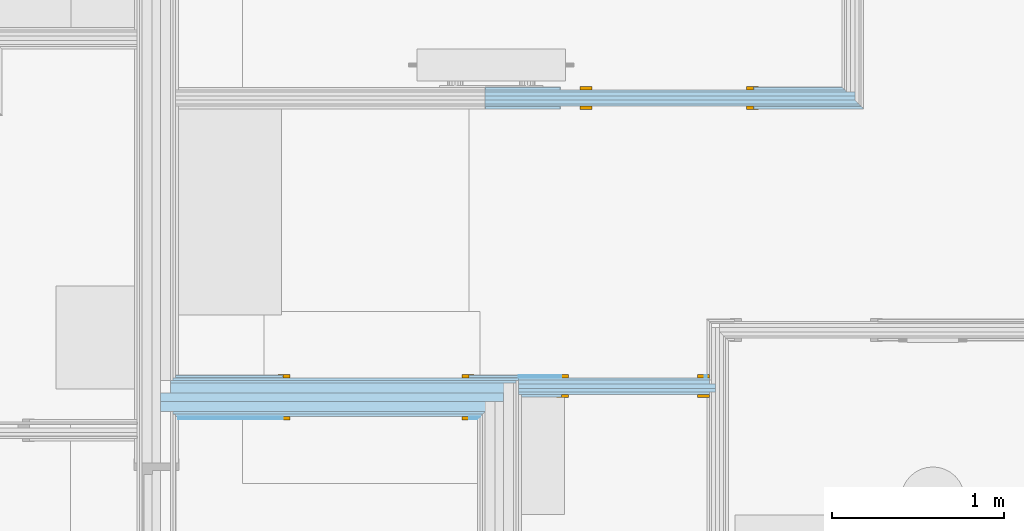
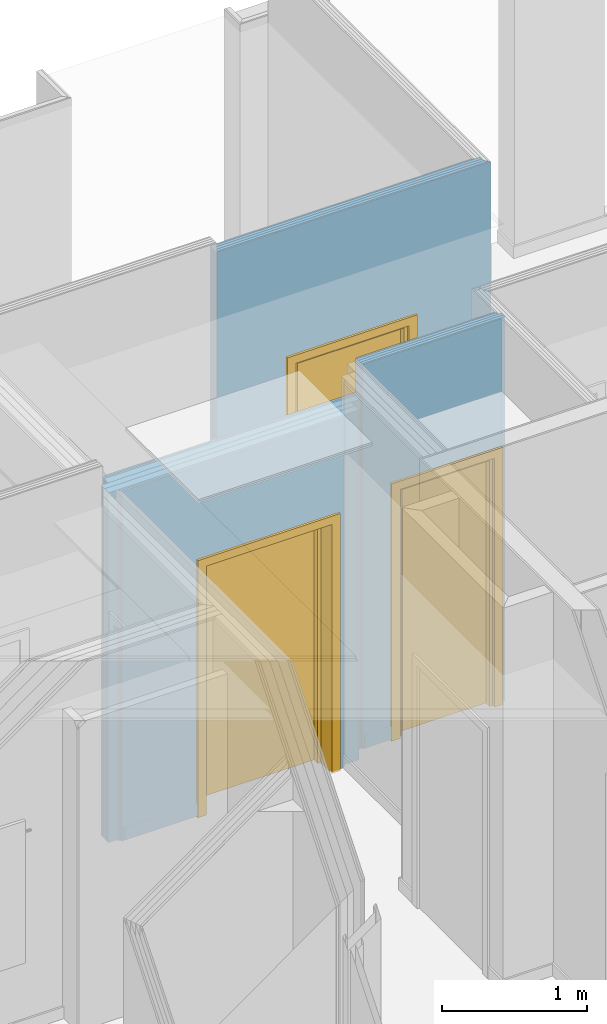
# One storey, part 49 of 64: 3 doors, 3 openings, 3 elements without a shape of their own, plus 23 elements that do not belong to this part.
"""IFC2X3 building model written with IfcOpenShell, lengths in metres."""

from ifc_helpers import new_model, entity, si_unit, converted_unit, derived_unit, money_unit, direction, frame, frame_2d, origin_with_axes, place, context, subcontext, project, spatial, polyline, rectangle, outline, extrude, faceted_brep, material, type_object, element, fill, aggregate, save


model = new_model("IFC2X3")

# Units and contexts
model_context = context("Model", 3, precision=1e-05, world=origin_with_axes(), true_north=direction((0.0, 1.0)))
body_context = subcontext(model_context, "Body", "Model", "MODEL_VIEW", scale=1.0)
ifc_project = project(units=[si_unit("LENGTHUNIT", "METRE"), si_unit("AREAUNIT", "SQUARE_METRE"), si_unit("VOLUMEUNIT", "CUBIC_METRE"), si_unit("ABSORBEDDOSEUNIT", "GRAY"), si_unit("AMOUNTOFSUBSTANCEUNIT", "MOLE"), si_unit("DOSEEQUIVALENTUNIT", "SIEVERT"), si_unit("ELECTRICCAPACITANCEUNIT", "FARAD"), si_unit("ELECTRICCHARGEUNIT", "COULOMB"), si_unit("ELECTRICCONDUCTANCEUNIT", "SIEMENS"), si_unit("ELECTRICCURRENTUNIT", "AMPERE"), si_unit("ELECTRICRESISTANCEUNIT", "OHM"), si_unit("ELECTRICVOLTAGEUNIT", "VOLT"), si_unit("ENERGYUNIT", "JOULE"), si_unit("FORCEUNIT", "NEWTON"), si_unit("FREQUENCYUNIT", "HERTZ"), si_unit("ILLUMINANCEUNIT", "LUX"), si_unit("INDUCTANCEUNIT", "HENRY"), si_unit("LUMINOUSFLUXUNIT", "LUMEN"), si_unit("LUMINOUSINTENSITYUNIT", "CANDELA"), si_unit("MAGNETICFLUXDENSITYUNIT", "TESLA"), si_unit("MAGNETICFLUXUNIT", "WEBER"), si_unit("MASSUNIT", "GRAM"), converted_unit("PLANEANGLEUNIT", "degree", entity("IfcReal", 0.0174532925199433), si_unit("PLANEANGLEUNIT", "RADIAN"), dimensions=[0, 0, 0, 0, 0, 0, 0]), si_unit("POWERUNIT", "WATT"), si_unit("PRESSUREUNIT", "PASCAL"), si_unit("RADIOACTIVITYUNIT", "BECQUEREL"), si_unit("SOLIDANGLEUNIT", "STERADIAN"), si_unit("THERMODYNAMICTEMPERATUREUNIT", "KELVIN"), si_unit("TIMEUNIT", "SECOND"), derived_unit("ACCELERATIONUNIT", [(si_unit("LENGTHUNIT", "METRE"), 1), (si_unit("TIMEUNIT", "SECOND"), -2)]), derived_unit("ANGULARVELOCITYUNIT", [(converted_unit("PLANEANGLEUNIT", "degree", entity("IfcReal", 0.0174532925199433), si_unit("PLANEANGLEUNIT", "RADIAN"), dimensions=[0, 0, 0, 0, 0, 0, 0]), 1), (si_unit("TIMEUNIT", "SECOND"), -1)]), derived_unit("CURVATUREUNIT", [(converted_unit("PLANEANGLEUNIT", "degree", entity("IfcReal", 0.0174532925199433), si_unit("PLANEANGLEUNIT", "RADIAN"), dimensions=[0, 0, 0, 0, 0, 0, 0]), 1), (si_unit("LENGTHUNIT", "METRE"), -1)]), derived_unit("DYNAMICVISCOSITYUNIT", [(si_unit("PRESSUREUNIT", "PASCAL"), 1), (si_unit("TIMEUNIT", "SECOND"), 1)]), derived_unit("HEATFLUXDENSITYUNIT", [(si_unit("POWERUNIT", "WATT"), 1), (si_unit("LENGTHUNIT", "METRE"), -2)]), derived_unit("HEATINGVALUEUNIT", [(si_unit("ENERGYUNIT", "JOULE"), 1), (si_unit("MASSUNIT", "GRAM"), -1)]), derived_unit("INTEGERCOUNTRATEUNIT", [(si_unit("TIMEUNIT", "SECOND"), -1)]), derived_unit("IONCONCENTRATIONUNIT", [(si_unit("MASSUNIT", "GRAM"), 1), (si_unit("VOLUMEUNIT", "CUBIC_METRE"), -1)]), derived_unit("ISOTHERMALMOISTURECAPACITYUNIT", [(si_unit("VOLUMEUNIT", "CUBIC_METRE"), 1), (si_unit("MASSUNIT", "GRAM"), -1)]), derived_unit("KINEMATICVISCOSITYUNIT", [(si_unit("AREAUNIT", "SQUARE_METRE"), 1), (si_unit("TIMEUNIT", "SECOND"), -1)]), derived_unit("LINEARFORCEUNIT", [(si_unit("FORCEUNIT", "NEWTON"), 1), (si_unit("LENGTHUNIT", "METRE"), -1)]), derived_unit("LINEARMOMENTUNIT", [(si_unit("FORCEUNIT", "NEWTON"), 1), (si_unit("LENGTHUNIT", "METRE"), -1)]), derived_unit("LINEARSTIFFNESSUNIT", [(si_unit("FORCEUNIT", "NEWTON"), 1), (si_unit("LENGTHUNIT", "METRE"), -1)]), derived_unit("LINEARVELOCITYUNIT", [(si_unit("LENGTHUNIT", "METRE"), 1), (si_unit("TIMEUNIT", "SECOND"), -1)]), derived_unit("LUMINOUSINTENSITYDISTRIBUTIONUNIT", [(si_unit("LUMINOUSINTENSITYUNIT", "CANDELA"), 1), (si_unit("LUMINOUSFLUXUNIT", "LUMEN"), -1)]), derived_unit("MASSDENSITYUNIT", [(si_unit("MASSUNIT", "GRAM"), 1), (si_unit("VOLUMEUNIT", "CUBIC_METRE"), -1)]), derived_unit("MASSFLOWRATEUNIT", [(si_unit("MASSUNIT", "GRAM"), 1), (si_unit("TIMEUNIT", "SECOND"), -1)]), derived_unit("MASSPERLENGTHUNIT", [(si_unit("MASSUNIT", "GRAM"), 1), (si_unit("LENGTHUNIT", "METRE"), -1)]), derived_unit("MODULUSOFELASTICITYUNIT", [(si_unit("FORCEUNIT", "NEWTON"), 1), (si_unit("AREAUNIT", "SQUARE_METRE"), -1)]), derived_unit("MODULUSOFLINEARSUBGRADEREACTIONUNIT", [(si_unit("FORCEUNIT", "NEWTON"), 1), (si_unit("LENGTHUNIT", "METRE"), -2)]), derived_unit("MODULUSOFROTATIONALSUBGRADEREACTIONUNIT", [(si_unit("FORCEUNIT", "NEWTON"), 1), (si_unit("LENGTHUNIT", "METRE"), 1)]), derived_unit("MODULUSOFSUBGRADEREACTIONUNIT", [(si_unit("FORCEUNIT", "NEWTON"), 1), (si_unit("VOLUMEUNIT", "CUBIC_METRE"), -1)]), derived_unit("MOISTUREDIFFUSIVITYUNIT", [(si_unit("VOLUMEUNIT", "CUBIC_METRE"), 1), (si_unit("TIMEUNIT", "SECOND"), -1)]), derived_unit("MOLECULARWEIGHTUNIT", [(si_unit("MASSUNIT", "GRAM"), 1), (si_unit("AMOUNTOFSUBSTANCEUNIT", "MOLE"), -1)]), derived_unit("PLANARFORCEUNIT", [(si_unit("FORCEUNIT", "NEWTON"), 1), (si_unit("LENGTHUNIT", "METRE"), -2)]), derived_unit("ROTATIONALFREQUENCYUNIT", [(si_unit("TIMEUNIT", "SECOND"), -1)]), derived_unit("ROTATIONALMASSUNIT", [(si_unit("MASSUNIT", "GRAM"), 1), (si_unit("LENGTHUNIT", "METRE"), 2)]), derived_unit("ROTATIONALSTIFFNESSUNIT", [(si_unit("FORCEUNIT", "NEWTON"), 1), (si_unit("LENGTHUNIT", "METRE"), 1), (converted_unit("PLANEANGLEUNIT", "degree", entity("IfcReal", 0.0174532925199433), si_unit("PLANEANGLEUNIT", "RADIAN"), dimensions=[0, 0, 0, 0, 0, 0, 0]), -1)]), derived_unit("SECTIONAREAINTEGRALUNIT", [(si_unit("LENGTHUNIT", "METRE"), 5)]), derived_unit("SECTIONMODULUSUNIT", [(si_unit("LENGTHUNIT", "METRE"), 3)]), derived_unit("SHEARMODULUSUNIT", [(si_unit("FORCEUNIT", "NEWTON"), 1), (si_unit("AREAUNIT", "SQUARE_METRE"), -1)]), derived_unit("SOUNDPOWERUNIT", [(si_unit("ENERGYUNIT", "JOULE"), 1), (si_unit("TIMEUNIT", "SECOND"), -1)]), derived_unit("SPECIFICHEATCAPACITYUNIT", [(si_unit("FORCEUNIT", "NEWTON"), 1), (si_unit("MASSUNIT", "GRAM"), -1), (si_unit("THERMODYNAMICTEMPERATUREUNIT", "KELVIN"), -1)]), derived_unit("TEMPERATUREGRADIENTUNIT", [(si_unit("THERMODYNAMICTEMPERATUREUNIT", "KELVIN"), 1), (si_unit("LENGTHUNIT", "METRE"), -1)]), derived_unit("THERMALADMITTANCEUNIT", [(si_unit("POWERUNIT", "WATT"), 1), (si_unit("AREAUNIT", "SQUARE_METRE"), -1), (si_unit("THERMODYNAMICTEMPERATUREUNIT", "KELVIN"), -1)]), derived_unit("THERMALCONDUCTANCEUNIT", [(si_unit("POWERUNIT", "WATT"), 1), (si_unit("LENGTHUNIT", "METRE"), -1), (si_unit("THERMODYNAMICTEMPERATUREUNIT", "KELVIN"), -1)]), derived_unit("THERMALEXPANSIONCOEFFICIENTUNIT", [(si_unit("THERMODYNAMICTEMPERATUREUNIT", "KELVIN"), -1)]), derived_unit("THERMALRESISTANCEUNIT", [(si_unit("AREAUNIT", "SQUARE_METRE"), 1), (si_unit("POWERUNIT", "WATT"), -1)]), derived_unit("THERMALTRANSMITTANCEUNIT", [(si_unit("POWERUNIT", "WATT"), 1), (si_unit("AREAUNIT", "SQUARE_METRE"), -1), (si_unit("THERMODYNAMICTEMPERATUREUNIT", "KELVIN"), -1)]), derived_unit("TORQUEUNIT", [(si_unit("FORCEUNIT", "NEWTON"), 1), (si_unit("LENGTHUNIT", "METRE"), 1)]), derived_unit("VAPORPERMEABILITYUNIT", [(si_unit("MASSUNIT", "GRAM"), 1), (si_unit("TIMEUNIT", "SECOND"), -1)]), derived_unit("VOLUMETRICFLOWRATEUNIT", [(si_unit("VOLUMEUNIT", "CUBIC_METRE"), 1), (si_unit("TIMEUNIT", "SECOND"), -1)]), derived_unit("WARPINGCONSTANTUNIT", [(si_unit("LENGTHUNIT", "METRE"), 6)]), derived_unit("WARPINGMOMENTUNIT", [(si_unit("FORCEUNIT", "NEWTON"), 1), (si_unit("LENGTHUNIT", "METRE"), 2)]), money_unit("GBP")], contexts=[model_context])

# Site, building, storey, space
site_placement = place(None, origin_with_axes())
site = spatial("IfcSite", under=ifc_project, at=site_placement, Name="Site", CompositionType="ELEMENT")
building_placement = place(site_placement, origin_with_axes())
building = spatial("IfcBuilding", under=site, at=building_placement, Name="Building01", CompositionType="ELEMENT")
storey_placement = place(building_placement, frame((0.0, 0.0, 8.64), z_axis=(0.0, 0.0, 1.0), x_axis=(1.0, 0.0, 0.0)))
storey = spatial("IfcBuildingStorey", under=building, at=storey_placement, Name="2F", CompositionType="ELEMENT", Elevation=8.64)
space_1_placement = place(storey_placement, frame((11.275, 11.668124, 0.017975), z_axis=(0.0, 0.0, 1.0), x_axis=(-1.0, 0.0, 0.0)))
space_1 = spatial("IfcSpace", under=storey, at=space_1_placement, Name="corridor", CompositionType="ELEMENT", InteriorOrExteriorSpace="NOTDEFINED")

# Door
ifc_material_1 = material(Name="A_BSUK_Doors")
door_style_1 = type_object("IfcDoorStyle", Name="A-Doors-SingleFlush", ConstructionType="USERDEFINED", OperationType="SINGLE_SWING_LEFT", ParameterTakesPrecedence=False, Sizeable=False)
wall_1_placement = place(storey_placement, frame((9.197, 9.949704, 0.0), z_axis=(0.0, 0.0, 1.0), x_axis=(-1.0, 0.0, 0.0)))
opening_1_placement = place(wall_1_placement, frame((0.200331, -0.153, 0.0), z_axis=(0.0, 0.0, 1.0), x_axis=(1.0, 0.0, 0.0)))
door_1_placement = place(opening_1_placement, frame((1.042, 0.015, 0.0), z_axis=(0.0, 0.0, 1.0), x_axis=(-1.0, 0.0, 0.0)))
door_1 = element("IfcDoor", 1, at=door_1_placement, inside=space_1, type_object=door_style_1, material=ifc_material_1, Name="2.23", ObjectType="A-Doors-SingleFlush", OverallHeight=2.142, OverallWidth=1.08400000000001, context=body_context, shape_type="Brep", body=[
    faceted_brep([(0.0, -0.244, 2.1), (1.0, -0.244, 2.1), (1.0, -0.244, 0.0), (1.069, -0.244, 0.0), (1.069, -0.244, 2.169), (-0.069, -0.244, 2.169), (-0.069, -0.244, 0.0), (0.0, -0.244, 0.0), (1.069, -0.225, 2.169), (1.069, -0.225, 0.0), (-0.069, -0.225, 0.0), (-0.069, -0.225, 2.169), (-0.042, -0.225, 0.0), (-0.042, 0.0, 0.0), (-0.069, 0.0, 0.0), (-0.069, 0.019, 0.0), (0.0, 0.019, 0.0), (0.0, 0.019, 2.1), (1.0, 0.019, 2.1), (-0.069, 0.019, 2.169), (1.069, 0.019, 2.169), (1.069, 0.019, 0.0), (1.0, 0.019, 0.0), (-0.069, 0.0, 2.169), (-0.042, 0.0, 2.142), (-0.042, -0.225, 2.142), (1.042, 0.0, 2.142), (1.042, -0.225, 2.142), (1.042, -0.225, 0.0), (1.042, 0.0, 0.0), (1.069, 0.0, 0.0), (1.069, 0.0, 2.169)], [[[0, 1, 2, 3, 4, 5, 6, 7]], [[8, 4, 3, 9]], [[10, 6, 5, 11]], [[11, 5, 4, 8]], [[7, 6, 10, 12, 13, 14, 15, 16]], [[7, 16, 17, 0]], [[0, 17, 18, 1]], [[17, 16, 15, 19, 20, 21, 22, 18]], [[1, 18, 22, 2]], [[14, 23, 19, 15]], [[24, 13, 12, 25]], [[26, 24, 25, 27]], [[11, 8, 9, 28, 27, 25, 12, 10]], [[27, 28, 29, 26]], [[26, 29, 30, 31, 23, 14, 13, 24]], [[22, 21, 30, 29, 28, 9, 3, 2]], [[30, 21, 20, 31]], [[31, 20, 19, 23]]]),
    faceted_brep([(1.0, -0.09, 0.0), (1.0, -0.04, 0.0), (1.0, -0.04, 2.1), (1.0, -0.09, 2.1), (0.025, -0.09, 2.075), (0.975, -0.09, 2.075), (0.975, -0.09, 0.0), (0.0, -0.09, 2.1), (0.0, -0.09, 0.0), (0.025, -0.09, 0.0), (0.0, -0.04, 0.0), (0.025, -0.04, 0.0), (0.0, -0.04, 2.1), (0.025, -0.04, 2.075), (0.975, -0.04, 0.0), (0.975, -0.04, 2.075)], [[[0, 1, 2, 3]], [[4, 5, 6, 0, 3, 7, 8, 9]], [[9, 8, 10, 11]], [[3, 2, 12, 7]], [[7, 12, 10, 8]], [[13, 11, 10, 12, 2, 1, 14, 15]], [[5, 15, 14, 6]], [[14, 1, 0, 6]], [[9, 11, 13, 4]], [[4, 13, 15, 5]]]),
    faceted_brep([(0.0, -0.04, 2.1), (0.0, 0.0, 2.1), (0.0, 0.0, 0.0), (0.0, -0.04, 0.0), (1.0, -0.04, 0.0), (1.0, 0.0, 0.0), (1.0, 0.0, 2.1), (1.0, -0.04, 2.1)], [[[0, 1, 2, 3]], [[4, 5, 6, 7]], [[3, 2, 5, 4]], [[3, 4, 7, 0]], [[7, 6, 1, 0]], [[1, 6, 5, 2]]]),
])

# Space
space_2_placement = place(storey_placement, frame((7.289669, 14.8, 0.017975), z_axis=(0.0, 0.0, 1.0), x_axis=(0.0, -1.0, 0.0)))
space_2 = spatial("IfcSpace", under=storey, at=space_2_placement, Name="15", CompositionType="ELEMENT", InteriorOrExteriorSpace="NOTDEFINED")

# Door
door_style_2 = type_object("IfcDoorStyle", Name="A-Doors-SingleFlush", ConstructionType="USERDEFINED", OperationType="SINGLE_SWING_RIGHT", ParameterTakesPrecedence=False, Sizeable=False)
wall_3_placement = place(storey_placement, frame((10.428871, 10.052704, 0.0), z_axis=(0.0, 0.0, 1.0), x_axis=(-1.0, 0.0, 0.0)))
opening_3_placement = place(wall_3_placement, frame((0.062, -0.05, 0.0), z_axis=(0.0, 0.0, 1.0), x_axis=(1.0, 0.0, 0.0)))
door_2_placement = place(opening_3_placement, frame((0.792, 0.015, 0.0), z_axis=(0.0, 0.0, 1.0), x_axis=(-1.0, 0.0, 0.0)))
door_2 = element("IfcDoor", 2, at=door_2_placement, inside=space_2, type_object=door_style_2, material=ifc_material_1, Name="2.24", ObjectType="A-Doors-SingleFlush", OverallHeight=2.142, OverallWidth=0.834, context=body_context, shape_type="Brep", body=[
    faceted_brep([(0.75, -0.114, 0.0), (0.819, -0.114, 0.0), (0.819, -0.114, 2.169), (-0.069, -0.114, 2.169), (-0.069, -0.114, 0.0), (0.0, -0.114, 0.0), (0.0, -0.114, 2.1), (0.75, -0.114, 2.1), (-0.069, -0.095, 0.0), (-0.069, -0.095, 2.169), (0.819, -0.095, 2.169), (0.819, -0.095, 0.0), (0.75, 0.019, 0.0), (0.819, 0.019, 0.0), (0.819, 0.0, 0.0), (0.792, 0.0, 0.0), (0.792, -0.095, 0.0), (0.75, 0.019, 2.1), (0.0, 0.019, 2.1), (0.0, 0.019, 0.0), (-0.069, 0.019, 0.0), (-0.069, 0.019, 2.169), (0.819, 0.019, 2.169), (0.819, 0.0, 2.169), (0.792, -0.095, 2.142), (0.792, 0.0, 2.142), (-0.042, -0.095, 2.142), (-0.042, 0.0, 2.142), (-0.042, -0.095, 0.0), (-0.042, 0.0, 0.0), (-0.069, 0.0, 2.169), (-0.069, 0.0, 0.0)], [[[0, 1, 2, 3, 4, 5, 6, 7]], [[8, 4, 3, 9]], [[10, 2, 1, 11]], [[9, 3, 2, 10]], [[12, 13, 14, 15, 16, 11, 1, 0]], [[7, 17, 12, 0]], [[6, 18, 17, 7]], [[18, 19, 20, 21, 22, 13, 12, 17]], [[5, 19, 18, 6]], [[13, 22, 23, 14]], [[24, 16, 15, 25]], [[26, 24, 25, 27]], [[11, 16, 24, 26, 28, 8, 9, 10]], [[27, 29, 28, 26]], [[25, 15, 14, 23, 30, 31, 29, 27]], [[5, 4, 8, 28, 29, 31, 20, 19]], [[30, 21, 20, 31]], [[23, 22, 21, 30]]]),
    faceted_brep([(0.0, -0.09, 2.1), (0.0, -0.04, 2.1), (0.0, -0.04, 0.0), (0.0, -0.09, 0.0), (0.725, -0.09, 0.0), (0.75, -0.09, 0.0), (0.75, -0.09, 2.1), (0.025, -0.09, 0.0), (0.025, -0.09, 2.075), (0.725, -0.09, 2.075), (0.725, -0.04, 0.0), (0.75, -0.04, 0.0), (0.75, -0.04, 2.1), (0.025, -0.04, 2.075), (0.025, -0.04, 0.0), (0.725, -0.04, 2.075)], [[[0, 1, 2, 3]], [[4, 5, 6, 0, 3, 7, 8, 9]], [[10, 11, 5, 4]], [[6, 12, 1, 0]], [[5, 11, 12, 6]], [[13, 14, 2, 1, 12, 11, 10, 15]], [[7, 14, 13, 8]], [[7, 3, 2, 14]], [[9, 15, 10, 4]], [[8, 13, 15, 9]]]),
    faceted_brep([(0.75, -0.04, 0.0), (0.75, 0.0, 0.0), (0.75, 0.0, 2.1), (0.75, -0.04, 2.1), (0.0, -0.04, 2.1), (0.0, 0.0, 2.1), (0.0, 0.0, 0.0), (0.0, -0.04, 0.0)], [[[0, 1, 2, 3]], [[4, 5, 6, 7]], [[7, 6, 1, 0]], [[3, 4, 7, 0]], [[3, 2, 5, 4]], [[1, 6, 5, 2]]]),
])

wall_2_placement = place(storey_placement, frame((9.09, 11.703124, 0.0), z_axis=(0.0, 0.0, 1.0), x_axis=(1.0, 0.0, 0.0)))
opening_2_placement = place(wall_2_placement, frame((0.579, -0.05, -0.015), z_axis=(0.0, 0.0, 1.0), x_axis=(1.0, 0.0, 0.0)))
door_3_placement = place(opening_2_placement, frame((0.042, 0.11, 0.015), z_axis=(0.0, 0.0, 1.0), x_axis=(1.0, 0.0, 0.0)))
door_3 = element("IfcDoor", 3, at=door_3_placement, inside=space_2, type_object=door_style_2, material=ifc_material_1, Name="2.25", ObjectType="A-Doors-SingleFlush", OverallHeight=2.14200000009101, OverallWidth=1.127117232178, context=body_context, shape_type="Brep", body=[
    faceted_brep([(0.9, -0.114, 0.0), (0.969, -0.114, 0.0), (0.969, -0.114, 2.169), (-0.069, -0.114, 2.169), (-0.069, -0.114, 0.0), (0.0, -0.114, 0.0), (0.0, -0.114, 2.1), (0.9, -0.114, 2.1), (-0.069, -0.095, 0.0), (-0.069, -0.095, 2.169), (0.969, -0.095, 2.169), (0.969, -0.095, 0.0), (0.9, 0.019, 0.0), (0.969, 0.019, 0.0), (0.969, 0.0, 0.0), (0.942, 0.0, 0.0), (0.942, -0.095, 0.0), (0.9, 0.019, 2.1), (0.0, 0.019, 2.1), (0.0, 0.019, 0.0), (-0.069, 0.019, 0.0), (-0.069, 0.019, 2.169), (0.969, 0.019, 2.169), (0.969, 0.0, 2.169), (0.942, -0.095, 2.142), (0.942, 0.0, 2.142), (-0.042, -0.095, 2.142), (-0.042, 0.0, 2.142), (-0.042, -0.095, 0.0), (-0.042, 0.0, 0.0), (-0.069, 0.0, 2.169), (-0.069, 0.0, 0.0)], [[[0, 1, 2, 3, 4, 5, 6, 7]], [[8, 4, 3, 9]], [[10, 2, 1, 11]], [[9, 3, 2, 10]], [[12, 13, 14, 15, 16, 11, 1, 0]], [[7, 17, 12, 0]], [[6, 18, 17, 7]], [[18, 19, 20, 21, 22, 13, 12, 17]], [[5, 19, 18, 6]], [[13, 22, 23, 14]], [[24, 16, 15, 25]], [[26, 24, 25, 27]], [[11, 16, 24, 26, 28, 8, 9, 10]], [[27, 29, 28, 26]], [[25, 15, 14, 23, 30, 31, 29, 27]], [[5, 4, 8, 28, 29, 31, 20, 19]], [[30, 21, 20, 31]], [[23, 22, 21, 30]]]),
    faceted_brep([(0.0, -0.09, 2.1), (0.0, -0.04, 2.1), (0.0, -0.04, 0.0), (0.0, -0.09, 0.0), (0.875, -0.09, 0.0), (0.9, -0.09, 0.0), (0.9, -0.09, 2.1), (0.025, -0.09, 0.0), (0.025, -0.09, 2.075), (0.875, -0.09, 2.075), (0.875, -0.04, 0.0), (0.9, -0.04, 0.0), (0.9, -0.04, 2.1), (0.025, -0.04, 2.075), (0.025, -0.04, 0.0), (0.875, -0.04, 2.075)], [[[0, 1, 2, 3]], [[4, 5, 6, 0, 3, 7, 8, 9]], [[10, 11, 5, 4]], [[6, 12, 1, 0]], [[5, 11, 12, 6]], [[13, 14, 2, 1, 12, 11, 10, 15]], [[7, 14, 13, 8]], [[7, 3, 2, 14]], [[9, 15, 10, 4]], [[8, 13, 15, 9]]]),
    faceted_brep([(0.9, -0.04, 0.0), (0.9, 0.0, 0.0), (0.9, 0.0, 2.1), (0.9, -0.04, 2.1), (0.0, -0.04, 2.1), (0.0, 0.0, 2.1), (0.0, 0.0, 0.0), (0.0, -0.04, 0.0)], [[[0, 1, 2, 3]], [[4, 5, 6, 7]], [[7, 6, 1, 0]], [[3, 4, 7, 0]], [[3, 2, 5, 4]], [[1, 6, 5, 2]]]),
])

# Wall, opening
wall_type_1 = type_object("IfcWallType", Name="SHE_A-Walls_Type01c_Partywall_225mm_twin_tall", PredefinedType="NOTDEFINED")
wall_1 = element("IfcWall", 4, at=wall_1_placement, inside=storey, type_object=wall_type_1, Name="1C", ObjectType="SHE_A-Walls_Type01c_Partywall_225mm_twin_tall")
opening_1 = element("IfcOpeningElement", 5, at=opening_1_placement, cuts=wall_1, Name="Opening", ObjectType="Opening", context=body_context, shape_type="SweptSolid", body=[
    extrude(rectangle(XDim=1.084, YDim=2.142, at=frame_2d((-0.542, 1.071), x_axis=(-1.0, 0.0))), frame((0.0, 0.0, 0.0), z_axis=(0.0, 1.0, 0.0), x_axis=(-1.0, 0.0, 0.0)), (0.0, 0.0, 1.0), 0.255),
])

fill(opening_1, door_1)

# Building element part
ifc_material_2 = material(Name="A_BSUK_Walls_Timber")
placement_1 = place(wall_1_placement, origin_with_axes())
building_element_part_1 = element("IfcBuildingElementPart", 6, at=placement_1, material=ifc_material_2, Name="1", context=body_context, shape_type="SweptSolid", body=[
    extrude(outline(polyline([(1.907331, -0.138), (-0.088, -0.138), (-0.103, -0.153), (1.907331, -0.153), (1.907331, -0.138)])), frame((0.0, 0.0, 0.015), z_axis=(0.0, 0.0, 1.0), x_axis=(1.0, 0.0, 0.0)), (0.0, 0.0, 1.0), 0.1),
])

ifc_material_3 = material(Name="A_BSUK_WallInternal_Finishes_Plasterboard")
building_element_part_2 = element("IfcBuildingElementPart", 7, at=placement_1, material=ifc_material_3, Name="2", context=body_context, shape_type="SweptSolid", body=[
    extrude(rectangle(XDim=2.010331, YDim=0.015, at=frame_2d((0.917166, -0.1305), x_axis=(-1.0, 0.0))), origin_with_axes(), (0.0, 0.0, 1.0), 2.95),
])

building_element_part_3 = element("IfcBuildingElementPart", 8, at=placement_1, material=ifc_material_3, Name="3", context=body_context, shape_type="SweptSolid", body=[
    extrude(rectangle(XDim=2.010331, YDim=0.015, at=frame_2d((0.932166, -0.1155), x_axis=(-1.0, 0.0))), origin_with_axes(), (0.0, 0.0, 1.0), 2.95),
])

ifc_material_4 = material(Name="Air Cavity")
building_element_part_4 = element("IfcBuildingElementPart", 9, at=placement_1, material=ifc_material_4, Name="4", context=body_context, shape_type="SweptSolid", body=[
    extrude(rectangle(XDim=2.010331, YDim=0.058, at=frame_2d((0.932166, -0.079), x_axis=(-1.0, 0.0))), origin_with_axes(), (0.0, 0.0, 1.0), 2.95),
])

ifc_material_5 = material(Name="A_BSUK_Insulation")
building_element_part_5 = element("IfcBuildingElementPart", 10, at=placement_1, material=ifc_material_5, Name="5", context=body_context, shape_type="SweptSolid", body=[
    extrude(rectangle(XDim=1.995331, YDim=0.05, at=frame_2d((0.997666, -0.025), x_axis=(-1.0, 0.0))), origin_with_axes(), (0.0, 0.0, 1.0), 2.95),
])

building_element_part_6 = element("IfcBuildingElementPart", 11, at=placement_1, material=ifc_material_4, Name="6", context=body_context, shape_type="SweptSolid", body=[
    extrude(rectangle(XDim=1.995331, YDim=0.057, at=frame_2d((0.997666, 0.0285), x_axis=(-1.0, 0.0))), origin_with_axes(), (0.0, 0.0, 1.0), 2.95),
])

building_element_part_7 = element("IfcBuildingElementPart", 12, at=placement_1, material=ifc_material_3, Name="7", context=body_context, shape_type="SweptSolid", body=[
    extrude(outline(polyline([(1.922331, 0.072), (0.122, 0.072), (0.107, 0.057), (1.922331, 0.057), (1.922331, 0.072)])), origin_with_axes(), (0.0, 0.0, 1.0), 2.95),
])

building_element_part_8 = element("IfcBuildingElementPart", 13, at=placement_1, material=ifc_material_3, Name="8", context=body_context, shape_type="SweptSolid", body=[
    extrude(outline(polyline([(1.907331, 0.087), (0.137, 0.087), (0.122, 0.072), (1.907331, 0.072), (1.907331, 0.087)])), origin_with_axes(), (0.0, 0.0, 1.0), 2.95),
])

building_element_part_9 = element("IfcBuildingElementPart", 14, at=placement_1, material=ifc_material_2, Name="9", context=body_context, shape_type="SweptSolid", body=[
    extrude(outline(polyline([(1.892331, 0.102), (0.152, 0.102), (0.137, 0.087), (1.892331, 0.087), (1.892331, 0.102)])), frame((0.0, 0.0, 0.015), z_axis=(0.0, 0.0, 1.0), x_axis=(1.0, 0.0, 0.0)), (0.0, 0.0, 1.0), 0.1),
])

aggregate(wall_1, [building_element_part_1, building_element_part_2, building_element_part_3, building_element_part_4, building_element_part_5, building_element_part_6, building_element_part_7, building_element_part_8, building_element_part_9])

# Wall, opening
wall_type_2 = type_object("IfcWallType", Name="SHE_A-Walls_Type05a_Partition_95mm_tall", PredefinedType="NOTDEFINED")
wall_2 = element("IfcWall", 15, at=wall_2_placement, inside=storey, type_object=wall_type_2, Name="5A", ObjectType="SHE_A-Walls_Type05a_Partition_95mm_tall")
opening_2 = element("IfcOpeningElement", 16, at=opening_2_placement, cuts=wall_2, Name="Opening", ObjectType="Opening", context=body_context, shape_type="SweptSolid", body=[
    extrude(outline(polyline([(-0.042, 0.0), (-0.042, 0.015), (0.0, 0.015), (0.0, 2.157), (-0.984, 2.157), (-0.984, 0.015), (-0.840883, 0.015), (-0.840883, 0.0), (-0.042, 0.0)])), frame((0.0, 0.0, 0.0), z_axis=(0.0, 1.0, 0.0), x_axis=(-1.0, 0.0, 0.0)), (0.0, 0.0, 1.0), 0.125),
    extrude(outline(polyline([(-0.942, 0.015), (-0.942, 0.0), (-0.042, 0.0), (-0.042, 0.015), (0.0, 0.015), (0.0, 2.157), (-0.984, 2.157), (-0.984, 0.015), (-0.942, 0.015)])), frame((0.0, 0.015, 0.0), z_axis=(0.0, 1.0, 0.0), x_axis=(-1.0, 0.0, 0.0)), (0.0, 0.0, 1.0), 0.012),
    extrude(outline(polyline([(0.0, 2.142), (0.0, 2.157), (-0.984, 2.157), (-0.984, 0.015), (-0.840883, 0.015), (-0.840883, 0.0), (0.143117, 0.0), (0.143117, 2.142), (0.0, 2.142)])), frame((0.0, 0.0, 0.0), z_axis=(0.0, 1.0, 0.0), x_axis=(-1.0, 0.0, 0.0)), (0.0, 0.0, 1.0), 0.015),
    extrude(outline(polyline([(-0.942, 0.015), (-0.942, 0.0), (-0.042, 0.0), (-0.042, 0.015), (0.0, 0.015), (0.0, 2.157), (-0.984, 2.157), (-0.984, 0.015), (-0.942, 0.015)])), frame((0.0, 0.027, 0.0), z_axis=(0.0, 1.0, 0.0), x_axis=(-1.0, 0.0, 0.0)), (0.0, 0.0, 1.0), 0.023),
    extrude(outline(polyline([(-0.942, 0.015), (-0.942, 0.0), (-0.042, 0.0), (-0.042, 0.015), (0.0, 0.015), (0.0, 2.157), (-0.984, 2.157), (-0.984, 0.015), (-0.942, 0.015)])), frame((0.0, 0.05, 0.0), z_axis=(0.0, 1.0, 0.0), x_axis=(-1.0, 0.0, 0.0)), (0.0, 0.0, 1.0), 0.025),
    extrude(outline(polyline([(-0.942, 0.015), (-0.942, 0.0), (-0.042, 0.0), (-0.042, 0.015), (0.0, 0.015), (0.0, 2.157), (-0.984, 2.157), (-0.984, 0.015), (-0.942, 0.015)])), frame((0.0, 0.075, 0.0), z_axis=(0.0, 1.0, 0.0), x_axis=(-1.0, 0.0, 0.0)), (0.0, 0.0, 1.0), 0.023),
    extrude(outline(polyline([(-0.942, 0.015), (-0.942, 0.0), (-0.042, 0.0), (-0.042, 0.015), (0.0, 0.015), (0.0, 2.157), (-0.984, 2.157), (-0.984, 0.015), (-0.942, 0.015)])), frame((0.0, 0.098, 0.0), z_axis=(0.0, 1.0, 0.0), x_axis=(-1.0, 0.0, 0.0)), (0.0, 0.0, 1.0), 0.012),
    extrude(outline(polyline([(-0.840883, 0.015), (-0.840883, 0.0), (0.143117, 0.0), (0.143117, 2.142), (0.0, 2.142), (0.0, 2.157), (-0.984, 2.157), (-0.984, 0.015), (-0.840883, 0.015)])), frame((0.0, 0.11, 0.0), z_axis=(0.0, 1.0, 0.0), x_axis=(-1.0, 0.0, 0.0)), (0.0, 0.0, 1.0), 0.015),
])

fill(opening_2, door_3)

# Building element part
placement_2 = place(wall_2_placement, origin_with_axes())
building_element_part_10 = element("IfcBuildingElementPart", 17, at=placement_2, material=ifc_material_2, Name="1", context=body_context, shape_type="SweptSolid", body=[
    extrude(outline(polyline([(2.185, -0.035), (0.0, -0.035), (0.0, -0.05), (2.2, -0.05), (2.185, -0.035)])), frame((0.0, 0.0, 0.015), z_axis=(0.0, 0.0, 1.0), x_axis=(1.0, 0.0, 0.0)), (0.0, 0.0, 1.0), 0.1),
])

building_element_part_11 = element("IfcBuildingElementPart", 18, at=placement_2, material=ifc_material_3, Name="2", context=body_context, shape_type="SweptSolid", body=[
    extrude(outline(polyline([(2.173, -0.023), (0.0, -0.023), (0.0, -0.035), (2.185, -0.035), (2.173, -0.023)])), origin_with_axes(), (0.0, 0.0, 1.0), 3.24),
])

building_element_part_12 = element("IfcBuildingElementPart", 19, at=placement_2, material=ifc_material_4, Name="3", context=body_context, shape_type="SweptSolid", body=[
    extrude(outline(polyline([(2.15, 0.0), (0.0, 0.0), (0.0, -0.023), (2.173, -0.023), (2.15, 0.0)])), origin_with_axes(), (0.0, 0.0, 1.0), 3.24),
])

building_element_part_13 = element("IfcBuildingElementPart", 20, at=placement_2, material=ifc_material_5, Name="4", context=body_context, shape_type="SweptSolid", body=[
    extrude(rectangle(XDim=2.15, YDim=0.025, at=frame_2d((1.075, 0.0125), x_axis=(-1.0, 0.0))), origin_with_axes(), (0.0, 0.0, 1.0), 3.24),
])

building_element_part_14 = element("IfcBuildingElementPart", 21, at=placement_2, material=ifc_material_4, Name="5", context=body_context, shape_type="SweptSolid", body=[
    extrude(rectangle(XDim=2.15, YDim=0.023, at=frame_2d((1.075, 0.0365), x_axis=(-1.0, 0.0))), origin_with_axes(), (0.0, 0.0, 1.0), 3.24),
])

building_element_part_15 = element("IfcBuildingElementPart", 22, at=placement_2, material=ifc_material_3, Name="6", context=body_context, shape_type="SweptSolid", body=[
    extrude(outline(polyline([(2.09, 0.06), (0.0, 0.06), (0.0, 0.048), (2.102, 0.048), (2.09, 0.06)])), origin_with_axes(), (0.0, 0.0, 1.0), 3.24),
])

building_element_part_16 = element("IfcBuildingElementPart", 23, at=placement_2, material=ifc_material_2, Name="7", context=body_context, shape_type="SweptSolid", body=[
    extrude(outline(polyline([(2.075, 0.075), (0.0, 0.075), (0.0, 0.06), (2.09, 0.06), (2.075, 0.075)])), frame((0.0, 0.0, 0.015), z_axis=(0.0, 0.0, 1.0), x_axis=(1.0, 0.0, 0.0)), (0.0, 0.0, 1.0), 0.1),
])

aggregate(wall_2, [building_element_part_10, building_element_part_11, building_element_part_12, building_element_part_13, building_element_part_14, building_element_part_15, building_element_part_16])

# Wall, opening
wall_3 = element("IfcWall", 24, at=wall_3_placement, inside=storey, type_object=wall_type_2, Name="5A", ObjectType="SHE_A-Walls_Type05a_Partition_95mm_tall")
opening_3 = element("IfcOpeningElement", 25, at=opening_3_placement, cuts=wall_3, Name="Opening", ObjectType="Opening", context=body_context, shape_type="SweptSolid", body=[
    extrude(rectangle(XDim=0.834, YDim=2.142, at=frame_2d((-0.417, 1.071), x_axis=(1.0, 0.0))), frame((0.0, 0.0, 0.0), z_axis=(0.0, 1.0, 0.0), x_axis=(-1.0, 0.0, 0.0)), (0.0, 0.0, 1.0), 0.125),
])

fill(opening_3, door_2)

# Building element part
placement_3 = place(wall_3_placement, origin_with_axes())
building_element_part_17 = element("IfcBuildingElementPart", 26, at=placement_3, material=ifc_material_2, Name="1", context=body_context, shape_type="SweptSolid", body=[
    extrude(rectangle(XDim=0.015, YDim=1.093871, at=frame_2d((0.596935, -0.0425), x_axis=(0.0, -1.0))), frame((0.0, 0.0, 0.015), z_axis=(0.0, 0.0, 1.0), x_axis=(1.0, 0.0, 0.0)), (0.0, 0.0, 1.0), 0.1),
])

building_element_part_18 = element("IfcBuildingElementPart", 27, at=placement_3, material=ifc_material_3, Name="2", context=body_context, shape_type="SweptSolid", body=[
    extrude(rectangle(XDim=1.108871, YDim=0.012, at=frame_2d((0.589435, -0.029), x_axis=(-1.0, 0.0))), origin_with_axes(), (0.0, 0.0, 1.0), 3.24),
])

building_element_part_19 = element("IfcBuildingElementPart", 28, at=placement_3, material=ifc_material_4, Name="3", context=body_context, shape_type="SweptSolid", body=[
    extrude(rectangle(XDim=1.108871, YDim=0.023, at=frame_2d((0.589435, -0.0115), x_axis=(-1.0, 0.0))), origin_with_axes(), (0.0, 0.0, 1.0), 3.24),
])

building_element_part_20 = element("IfcBuildingElementPart", 29, at=placement_3, material=ifc_material_5, Name="4", context=body_context, shape_type="SweptSolid", body=[
    extrude(rectangle(XDim=1.143871, YDim=0.025, at=frame_2d((0.571935, 0.0125), x_axis=(-1.0, 0.0))), origin_with_axes(), (0.0, 0.0, 1.0), 3.24),
])

building_element_part_21 = element("IfcBuildingElementPart", 30, at=placement_3, material=ifc_material_4, Name="5", context=body_context, shape_type="SweptSolid", body=[
    extrude(rectangle(XDim=1.143871, YDim=0.023, at=frame_2d((0.571935, 0.0365), x_axis=(-1.0, 0.0))), origin_with_axes(), (0.0, 0.0, 1.0), 3.24),
])

building_element_part_22 = element("IfcBuildingElementPart", 31, at=placement_3, material=ifc_material_3, Name="6", context=body_context, shape_type="SweptSolid", body=[
    extrude(rectangle(XDim=1.108871, YDim=0.012, at=frame_2d((0.589435, 0.054), x_axis=(-1.0, 0.0))), origin_with_axes(), (0.0, 0.0, 1.0), 3.24),
])

building_element_part_23 = element("IfcBuildingElementPart", 32, at=placement_3, material=ifc_material_2, Name="7", context=body_context, shape_type="SweptSolid", body=[
    extrude(outline(polyline([(1.128871, 0.075), (0.25, 0.075), (0.235, 0.06), (1.128871, 0.06), (1.128871, 0.075)])), frame((0.0, 0.0, 0.015), z_axis=(0.0, 0.0, 1.0), x_axis=(1.0, 0.0, 0.0)), (0.0, 0.0, 1.0), 0.1),
])

aggregate(wall_3, [building_element_part_17, building_element_part_18, building_element_part_19, building_element_part_20, building_element_part_21, building_element_part_22, building_element_part_23])

save(model, "model.ifc")
